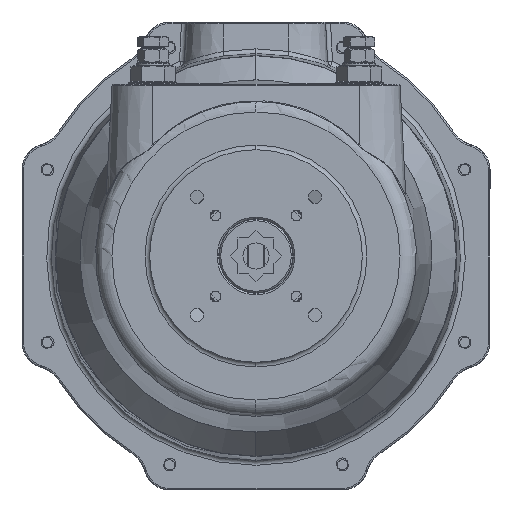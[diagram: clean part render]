
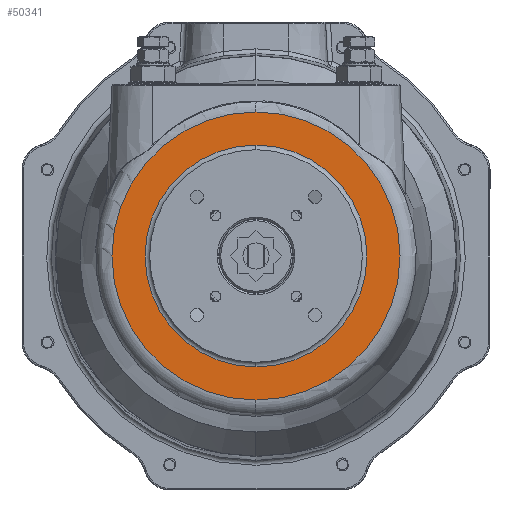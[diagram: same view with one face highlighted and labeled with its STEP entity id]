
A CAD part, front view. The second image highlights one B-rep face of the part: STEP entity #50341.
In plain terms, the highlighted planar face has unit normal (0, -1, 0).
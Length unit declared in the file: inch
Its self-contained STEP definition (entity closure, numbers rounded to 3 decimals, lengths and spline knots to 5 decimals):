
#357 = CIRCLE ( 'NONE', #37591, 3.46465 ) ;
#3320 = CARTESIAN_POINT ( 'NONE',  ( 10.2279, -1.04071, 10.92267 ) ) ;
#5658 = CARTESIAN_POINT ( 'NONE',  ( 10.2279, -1.04071, 10.92267 ) ) ;
#10279 = CARTESIAN_POINT ( 'NONE',  ( 10.2279, -1.04071, 10.92267 ) ) ;
#10403 = FACE_OUTER_BOUND ( 'NONE', #81885, .T. ) ;
#13705 = DIRECTION ( 'NONE',  ( 0., 0., 1. ) ) ;
#16529 = ORIENTED_EDGE ( 'NONE', *, *, #62547, .T. ) ;
#16555 = ORIENTED_EDGE ( 'NONE', *, *, #41779, .T. ) ;
#19056 = CARTESIAN_POINT ( 'NONE',  ( 10.2279, -1.04071, 8.25363 ) ) ;
#23581 = CIRCLE ( 'NONE', #38430, 2.66904 ) ;
#25500 = DIRECTION ( 'NONE',  ( 0., 1., 0. ) ) ;
#33458 = CARTESIAN_POINT ( 'NONE',  ( 10.2279, -1.04071, 10.92267 ) ) ;
#33946 = DIRECTION ( 'NONE',  ( 0., 0., 1. ) ) ;
#34122 = DIRECTION ( 'NONE',  ( 0., 1., 0. ) ) ;
#37591 = AXIS2_PLACEMENT_3D ( 'NONE', #10279, #88623, #46210 ) ;
#38430 = AXIS2_PLACEMENT_3D ( 'NONE', #5658, #34122, #62533 ) ;
#39649 = DIRECTION ( 'NONE',  ( 0., 0., -1. ) ) ;
#41779 = EDGE_CURVE ( 'NONE', #48210, #57465, #357, .T. ) ;
#42103 = CARTESIAN_POINT ( 'NONE',  ( 13.69255, -1.04071, 10.92267 ) ) ;
#46210 = DIRECTION ( 'NONE',  ( 0., 0., -1. ) ) ;
#48210 = VERTEX_POINT ( 'NONE', #53414 ) ;
#50341 = ADVANCED_FACE ( 'NONE', ( #88302, #10403 ), #60265, .F. ) ;
#51222 = AXIS2_PLACEMENT_3D ( 'NONE', #3320, #85154, #39649 ) ;
#53414 = CARTESIAN_POINT ( 'NONE',  ( 10.2279, -1.04071, 14.38732 ) ) ;
#55155 = VERTEX_POINT ( 'NONE', #72313 ) ;
#57465 = VERTEX_POINT ( 'NONE', #73594 ) ;
#60265 = PLANE ( 'NONE',  #89774 ) ;
#60429 = CIRCLE ( 'NONE', #82702, 2.66904 ) ;
#62533 = DIRECTION ( 'NONE',  ( 0., 0., 1. ) ) ;
#62547 = EDGE_CURVE ( 'NONE', #57465, #48210, #91462, .T. ) ;
#64418 = ORIENTED_EDGE ( 'NONE', *, *, #66343, .T. ) ;
#66343 = EDGE_CURVE ( 'NONE', #55155, #89999, #60429, .T. ) ;
#67653 = EDGE_CURVE ( 'NONE', #89999, #55155, #23581, .T. ) ;
#69119 = DIRECTION ( 'NONE',  ( 0., 1., 0. ) ) ;
#72313 = CARTESIAN_POINT ( 'NONE',  ( 10.2279, -1.04071, 13.59171 ) ) ;
#73594 = CARTESIAN_POINT ( 'NONE',  ( 10.2279, -1.04071, 7.45802 ) ) ;
#77514 = ORIENTED_EDGE ( 'NONE', *, *, #67653, .T. ) ;
#79125 = EDGE_LOOP ( 'NONE', ( #64418, #77514 ) ) ;
#81885 = EDGE_LOOP ( 'NONE', ( #16529, #16555 ) ) ;
#82702 = AXIS2_PLACEMENT_3D ( 'NONE', #33458, #25500, #33946 ) ;
#85154 = DIRECTION ( 'NONE',  ( 0., -1., 0. ) ) ;
#88302 = FACE_BOUND ( 'NONE', #79125, .T. ) ;
#88623 = DIRECTION ( 'NONE',  ( 0., -1., 0. ) ) ;
#89774 = AXIS2_PLACEMENT_3D ( 'NONE', #42103, #69119, #13705 ) ;
#89999 = VERTEX_POINT ( 'NONE', #19056 ) ;
#91462 = CIRCLE ( 'NONE', #51222, 3.46465 ) ;
